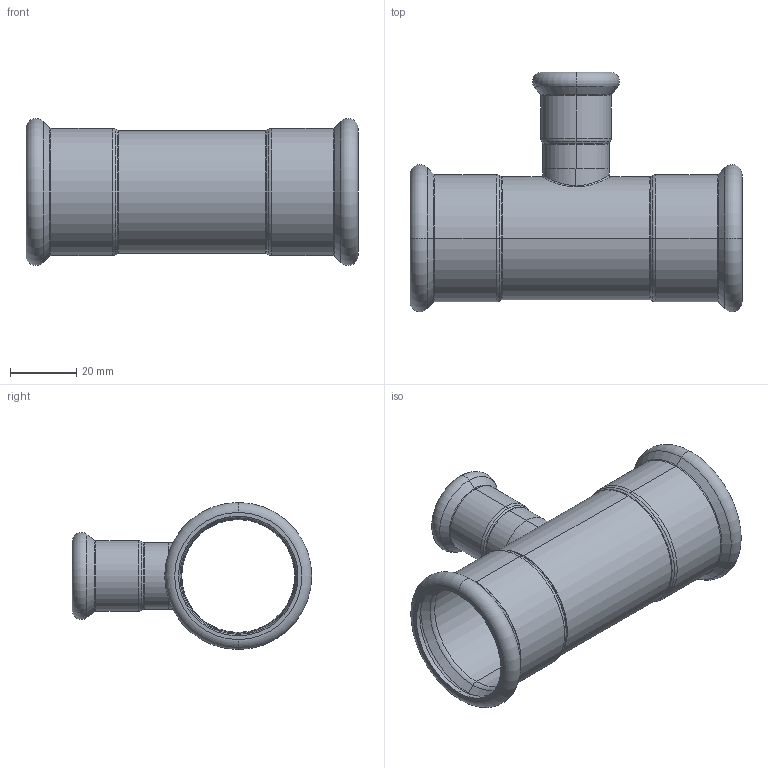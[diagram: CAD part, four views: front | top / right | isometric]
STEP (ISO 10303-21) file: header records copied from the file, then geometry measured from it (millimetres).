
FILE_DESCRIPTION (( 'STEP AP203' ), '1' );
FILE_NAME ('GDA5198.STEP', '2019-01-12T05:47:18', ( '' ), ( '' ), 'SwSTEP 2.0', 'SolidWorks 2015', '' );
FILE_SCHEMA (( 'CONFIG_CONTROL_DESIGN' ));
Length unit declared in the file: millimetre
Products named in the file (3): T(R)-¢ñ-35¡Á18''; GDA5198; T-ｉ-01-18
Assembly tree (2 placements, depth 2):
  GDA5198
    T(R)-¢ñ-35¡Á18''
    T-ｉ-01-18
Bounding box: 100 x 72.15 x 44.29 mm (x, y, z)
Volume: 21302.8 mm3; surface area: 29015.9 mm2
Topology: 2 solids, 2 shells, 114 faces, 234 edges, 128 vertices
Faces by surface type: torus 48, cylinder 30, cone 24, plane 8, bspline 4
Entity records: 4231 total; most frequent: CARTESIAN_POINT 1441, DIRECTION 620, ORIENTED_EDGE 468, AXIS2_PLACEMENT_3D 283, EDGE_CURVE 234, CIRCLE 168, VERTEX_POINT 128, EDGE_LOOP 124
